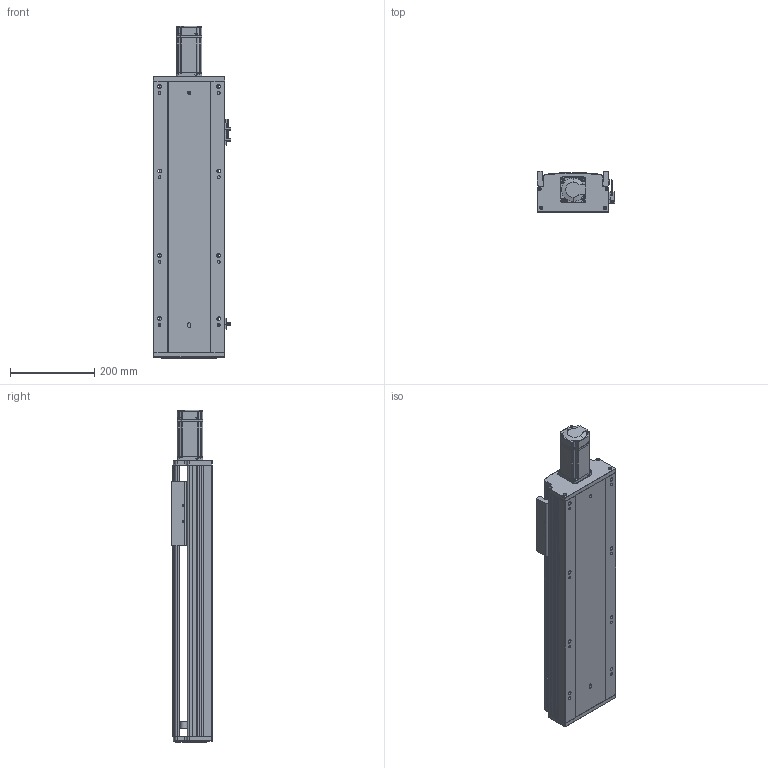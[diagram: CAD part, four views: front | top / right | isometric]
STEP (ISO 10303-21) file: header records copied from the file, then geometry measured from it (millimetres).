
FILE_DESCRIPTION (( 'STEP AP203' ), '1' );
FILE_NAME ('RY170Q-L2020-400-MK.SLDASM_0400.step', '2021-05-31T02:02:18', ( '盈信电脑' ), ( '东莞市道滘镇水果街19号' ), 'SwSTEP 2.0', 'SolidWorks 2016', '' );
FILE_SCHEMA (( 'CONFIG_CONTROL_DESIGN' ));
Length unit declared in the file: millimetre
Products named in the file (12): RY170ヶ醱裔啣; RY170外置感应片(200共用）; RY170Q-400倰第裔啣-MK_0400; 滅袉蝶18-10; RY170綴裔啣; 15; RY170Q-L2020-400-MK.SLDASM_0400; 覜茼ん672; 侂狟400W侜督萇儂; RY170Q-400倰第菁釱-MK_0400; RY170Q臏賑輸20佪裝蹟譫(FK15); 滅袉蝶18-15
Assembly tree (14 placements, depth 3):
  RY170Q-L2020-400-MK.SLDASM_0400
    RY170Q-400倰第菁釱-MK_0400
    RY170Q-400倰第裔啣-MK_0400
    RY170Q臏賑輸20佪裝蹟譫(FK15)
    侂狟400W侜督萇儂
      15
    RY170綴裔啣
    覜茼ん672  x3
    RY170外置感应片(200共用）
    RY170ヶ醱裔啣
    滅袉蝶18-15  x2
    滅袉蝶18-10
Bounding box: 183.7 x 97 x 786.5 mm (x, y, z)
Volume: 3710899.3 mm3; surface area: 1157728.2 mm2
Topology: 13 solids, 13 shells, 2100 faces, 5927 edges, 3839 vertices
Faces by surface type: plane 1185, cylinder 733, cone 153, bspline 29
Entity records: 65190 total; most frequent: CARTESIAN_POINT 13995, ORIENTED_EDGE 10650, DIRECTION 10156, EDGE_CURVE 5325, LINE 3520, VECTOR 3520, VERTEX_POINT 3507, AXIS2_PLACEMENT_3D 3318
